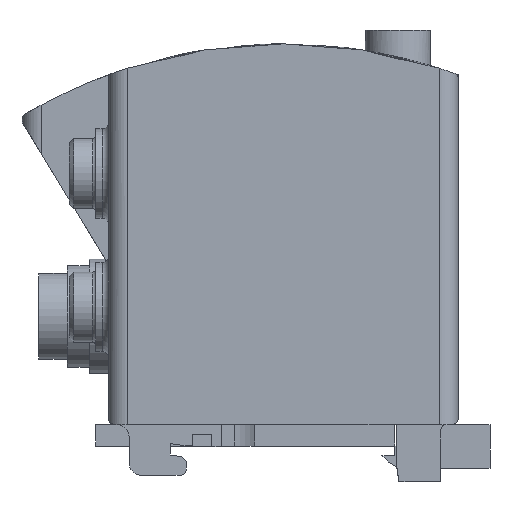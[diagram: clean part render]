
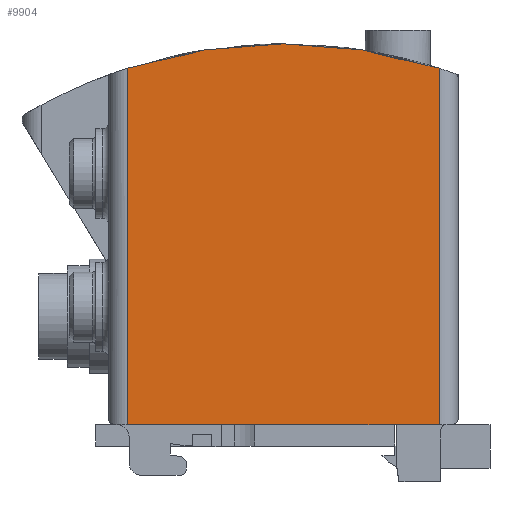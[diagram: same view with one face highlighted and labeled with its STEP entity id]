
A CAD part, left-side view. The second image highlights one B-rep face of the part: STEP entity #9904.
In plain terms, the highlighted planar face has unit normal (-1, 0, 0).
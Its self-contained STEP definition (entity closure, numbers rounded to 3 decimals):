
#261=CIRCLE('',#10407,80.);
#1325=ORIENTED_EDGE('',*,*,#3000,.F.);
#1326=ORIENTED_EDGE('',*,*,#3001,.T.);
#1327=ORIENTED_EDGE('',*,*,#3002,.F.);
#1328=ORIENTED_EDGE('',*,*,#3003,.F.);
#3000=EDGE_CURVE('',#3892,#3893,#4613,.T.);
#3001=EDGE_CURVE('',#3892,#3894,#4614,.F.);
#3002=EDGE_CURVE('',#3895,#3894,#261,.T.);
#3003=EDGE_CURVE('',#3893,#3895,#4615,.F.);
#3892=VERTEX_POINT('',#14019);
#3893=VERTEX_POINT('',#14020);
#3894=VERTEX_POINT('',#14022);
#3895=VERTEX_POINT('',#14024);
#4613=LINE('',#14018,#5418);
#4614=LINE('',#14021,#5419);
#4615=LINE('',#14025,#5420);
#5418=VECTOR('',#11727,1000.);
#5419=VECTOR('',#11728,1000.);
#5420=VECTOR('',#11731,1000.);
#5945=EDGE_LOOP('',(#1325,#1326,#1327,#1328));
#6428=FACE_BOUND('',#5945,.T.);
#6829=PLANE('',#10406);
#9904=ADVANCED_FACE('',(#6428),#6829,.F.);
#10406=AXIS2_PLACEMENT_3D('',#14017,#11725,#11726);
#10407=AXIS2_PLACEMENT_3D('',#14023,#11729,#11730);
#11725=DIRECTION('',(1.,0.,0.));
#11726=DIRECTION('',(0.,0.,-1.));
#11727=DIRECTION('',(0.,1.,0.));
#11728=DIRECTION('',(0.,0.,-1.));
#11729=DIRECTION('',(1.,0.,0.));
#11730=DIRECTION('',(0.,0.,-1.));
#11731=DIRECTION('',(0.,0.,-1.));
#14017=CARTESIAN_POINT('',(-99.,27.5,-20.125));
#14018=CARTESIAN_POINT('',(-99.,1.,0.));
#14019=CARTESIAN_POINT('',(-99.,3.,0.));
#14020=CARTESIAN_POINT('',(-99.,52.,0.));
#14021=CARTESIAN_POINT('',(-99.,3.,70.));
#14022=CARTESIAN_POINT('',(-99.,3.,56.031));
#14023=CARTESIAN_POINT('',(-99.,27.5,-20.125));
#14024=CARTESIAN_POINT('',(-99.,52.,56.031));
#14025=CARTESIAN_POINT('',(-99.,52.,70.));
